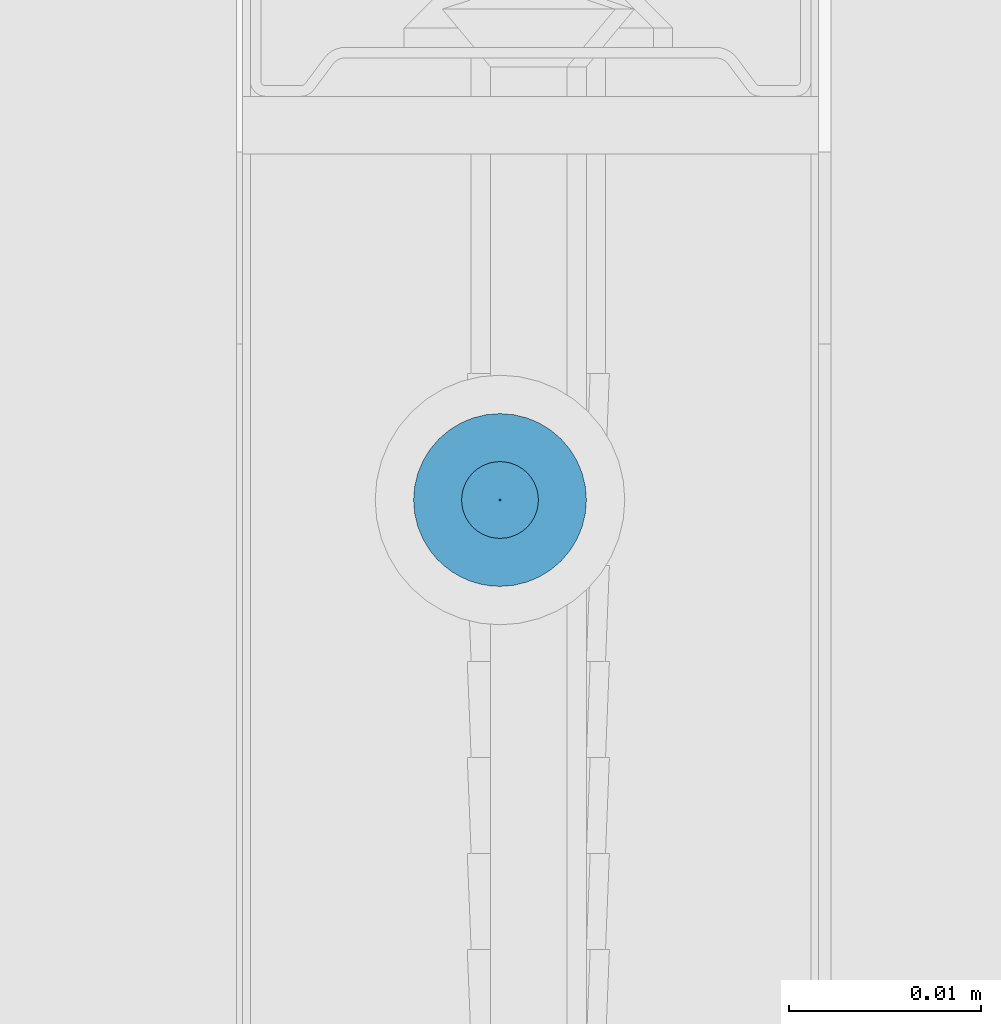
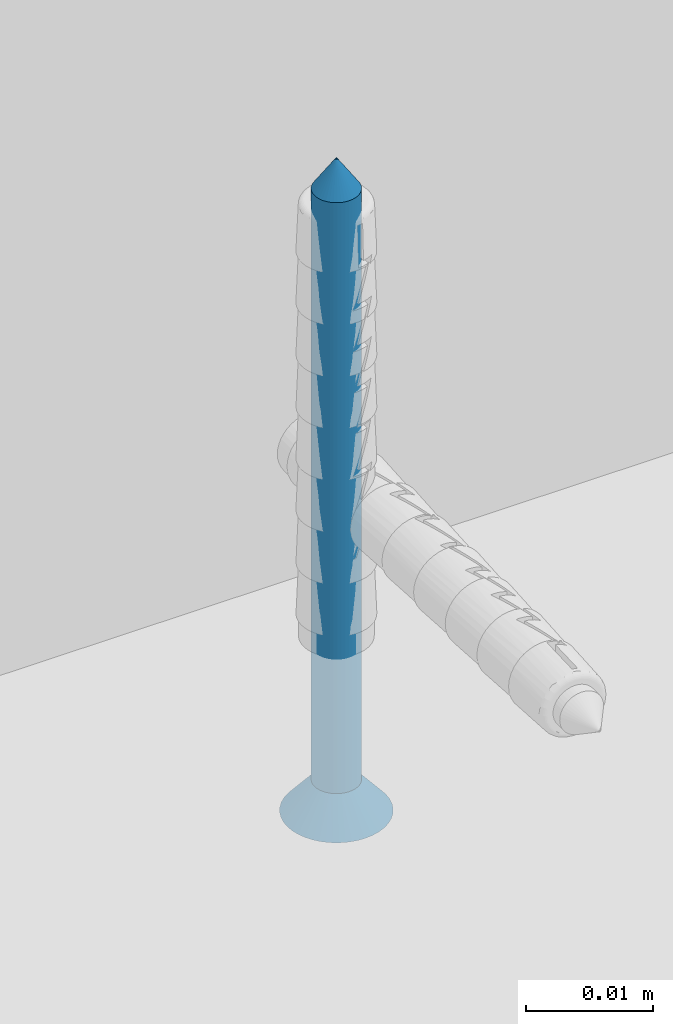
# One storey, part 41 of 62: 1 wall.
"""IFC2X3 building model written with IfcOpenShell, lengths in millimetres."""

from ifc_helpers import new_model, si_unit, frame, origin_with_axes, place, context, subcontext, project, spatial, faceted_brep, material, type_object, element, save


model = new_model("IFC2X3")

# Units and contexts
model_context = context("Model", 3, world=origin_with_axes())
body_context = subcontext(model_context, "Body", "Model", "MODEL_VIEW")
ifc_project = project(units=[si_unit("LENGTHUNIT", "METRE", prefix="MILLI"), si_unit("AREAUNIT", "SQUARE_METRE"), si_unit("VOLUMEUNIT", "CUBIC_METRE")], contexts=[model_context])

# Site, building, storey
site_placement = place(None, frame((2152.14102611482, -2015.0250894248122, 57.61556563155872), z_axis=(0.0, 0.0, 1.0), x_axis=(-1.1102230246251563e-16, 1.0, 0.0)))
site = spatial("IfcSite", under=ifc_project, at=site_placement, Name="Default Site", CompositionType="ELEMENT")
building_placement = place(site_placement, origin_with_axes())
building = spatial("IfcBuilding", under=site, at=building_placement, Name="Default Building", CompositionType="ELEMENT")
storey_placement = place(building_placement, origin_with_axes())
storey = spatial("IfcBuildingStorey", under=building, at=storey_placement, Name="Default Building Storey", CompositionType="ELEMENT", Elevation=57.61556563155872)

# Wall
ifc_material = material(Name="Default")
wall_type = type_object("IfcWallType", Name="Kołek rozporowy min. fi 6#12", PredefinedType="NOTDEFINED")
wall_placement = place(storey_placement, frame((5760.198319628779, 524.6062581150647, 2312.75566171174), z_axis=(-5.639932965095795e-13, -7.647588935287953e-13, -1.0), x_axis=(-1.5788011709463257e-11, -1.0, 7.647588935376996e-13)))
element("IfcWall", 1, at=wall_placement, inside=storey, type_object=wall_type, material=ifc_material, Name="Kołek rozporowy min. fi 6", context=body_context, shape_type="Brep", body=[
    faceted_brep([(-1438.3141994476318, 3453.2833099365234, -0.46425670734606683), (-1435.8141422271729, 3453.2833099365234, -3.464256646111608), (-1435.7895851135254, 3452.970266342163, -3.464256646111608), (-1438.2587671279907, 3452.579259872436, -0.46425670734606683), (-1435.7162714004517, 3452.6650905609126, -3.464256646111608), (-1438.093900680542, 3451.892614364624, -0.46425670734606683), (-1435.5961084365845, 3452.3751735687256, -3.464256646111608), (-1437.8236532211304, 3451.240301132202, -0.46425670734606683), (-1435.4321956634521, 3452.107667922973, -3.464256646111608), (-1437.4547004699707, 3450.6382942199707, -0.46425670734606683), (-1435.22834777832, 3451.8690109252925, -3.464256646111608), (-1436.9961023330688, 3450.101137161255, -0.46425670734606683), (-1434.9896907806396, 3451.665163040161, -3.464256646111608), (-1436.4591836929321, 3449.642658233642, -0.46425670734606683), (-1434.7221851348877, 3451.501131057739, -3.464256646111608), (-1435.8570575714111, 3449.2735862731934, -0.46425670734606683), (-1434.4321489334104, 3451.381206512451, -3.464256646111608), (-1435.2047443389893, 3449.0034580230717, -0.46425670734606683), (-1434.1269731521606, 3451.307773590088, -3.464256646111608), (-1434.5180988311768, 3448.838710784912, -0.46425670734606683), (-1433.8141679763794, 3451.28321647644, -3.464256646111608), (-1433.8141679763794, 3448.7831592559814, -0.46425670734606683), (-1433.5012435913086, 3451.307773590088, -3.464256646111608), (-1433.110237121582, 3448.838710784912, -0.46425670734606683), (-1433.1960678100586, 3451.381206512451, -3.464256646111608), (-1432.4235916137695, 3449.0034580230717, -0.46425670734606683), (-1432.9061508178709, 3451.501131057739, -3.464256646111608), (-1431.771159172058, 3449.2735862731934, -0.46425670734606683), (-1432.6385259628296, 3451.665163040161, -3.464256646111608), (-1431.1691522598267, 3449.642658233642, -0.46425670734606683), (-1432.3999881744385, 3451.8690109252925, -3.464256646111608), (-1430.6321144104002, 3450.101137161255, -0.46425670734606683), (-1432.1961402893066, 3452.107667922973, -3.464256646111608), (-1430.1735162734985, 3450.6382942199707, -0.46425670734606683), (-1432.0321083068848, 3452.3751735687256, -3.464256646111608), (-1429.8045635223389, 3451.240301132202, -0.46425670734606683), (-1431.9120645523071, 3452.6650905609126, -3.464256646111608), (-1429.5344352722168, 3451.892614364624, -0.46425670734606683), (-1431.8387508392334, 3453.5961151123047, -3.464256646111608), (-1429.369568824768, 3453.9871215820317, -0.46425670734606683), (-1429.314136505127, 3453.2833099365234, -0.46425670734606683), (-1431.814193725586, 3453.2833099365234, -3.464256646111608), (-1429.369568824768, 3452.579259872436, -0.46425670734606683), (-1431.8387508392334, 3452.970266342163, -3.464256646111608), (-1431.9120645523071, 3453.9012908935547, -3.464256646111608), (-1429.5344352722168, 3454.6737670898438, -0.46425670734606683), (-1432.0321083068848, 3454.191207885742, -3.464256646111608), (-1429.8045635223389, 3455.3260803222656, -0.46425670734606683), (-1432.1961402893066, 3454.458713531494, -3.464256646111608), (-1430.1735162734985, 3455.9283256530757, -0.46425670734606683), (-1432.3999881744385, 3454.6973705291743, -3.464256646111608), (-1430.6321144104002, 3456.465244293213, -0.46425670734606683), (-1432.6385259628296, 3454.9012184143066, -3.464256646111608), (-1431.1691522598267, 3456.923723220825, -0.46425670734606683), (-1432.9061508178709, 3455.065250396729, -3.464256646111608), (-1431.771159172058, 3457.2927951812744, -0.46425670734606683), (-1433.1960678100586, 3455.1854133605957, -3.464256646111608), (-1432.4235916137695, 3457.562923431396, -0.46425670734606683), (-1433.5012435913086, 3455.25860786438, -3.464256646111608), (-1433.110237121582, 3457.7279090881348, -0.46425670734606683), (-1433.8141679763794, 3455.283164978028, -3.464256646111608), (-1433.8141679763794, 3457.7832221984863, -0.46425670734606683), (-1434.3430995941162, 3457.7519893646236, -0.46425670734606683), (-1434.1269731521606, 3455.25860786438, -3.464256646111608), (-1434.4321489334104, 3455.1854133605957, -3.464256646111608), (-1434.8646402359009, 3457.6590061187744, -0.46425670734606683), (-1435.3716373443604, 3457.504987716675, -0.46425670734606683), (-1434.7221851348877, 3455.065250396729, -3.464256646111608), (-1435.8570575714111, 3457.2927951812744, -0.46425670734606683), (-1434.9896907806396, 3454.9012184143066, -3.464256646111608), (-1435.22834777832, 3454.6973705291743, -3.464256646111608), (-1436.3142251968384, 3457.024812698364, -0.46425670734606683), (-1436.7367029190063, 3456.705093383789, -0.46425670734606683), (-1437.118649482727, 3456.337928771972, -0.46425670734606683), (-1437.4547004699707, 3455.9283256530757, -0.46425670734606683), (-1435.4321956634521, 3454.458713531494, -3.464256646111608), (-1435.5961084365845, 3454.191207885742, -3.464256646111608), (-1437.8236532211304, 3455.3260803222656, -0.46425670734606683), (-1435.7162714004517, 3453.9012908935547, -3.464256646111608), (-1438.093900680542, 3454.6737670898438, -0.46425670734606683), (-1435.7895851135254, 3453.5961151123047, -3.464256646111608), (-1438.2587671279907, 3453.9871215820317, -0.46425670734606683), (-1434.2052936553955, 3455.752372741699, 0.20073754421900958), (-1433.8141679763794, 3455.7831287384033, 0.20073754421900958), (-1434.5866441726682, 3455.6608200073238, 0.20073754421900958), (-1434.9491596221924, 3455.510854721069, 0.20073754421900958), (-1435.2836608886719, 3455.305814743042, 0.20073754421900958), (-1435.581922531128, 3455.0509452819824, 0.20073754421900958), (-1435.836672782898, 3454.7526836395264, 0.20073754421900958), (-1436.0417127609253, 3454.418182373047, 0.20073754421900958), (-1436.1917972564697, 3454.0557861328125, 0.20073754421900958), (-1436.2833499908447, 3453.6743164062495, 0.20073754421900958), (-1436.3141059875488, 3453.2833099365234, 0.20073754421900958), (-1436.2833499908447, 3452.8920650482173, 0.20073754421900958), (-1436.1917972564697, 3452.5105953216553, 0.20073754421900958), (-1436.0417127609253, 3452.148199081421, 0.20073754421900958), (-1435.836672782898, 3451.8136978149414, 0.20073754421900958), (-1435.581922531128, 3451.5154361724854, 0.20073754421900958), (-1435.2836608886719, 3451.260566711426, 0.20073754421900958), (-1434.9491596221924, 3451.0557651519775, 0.20073754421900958), (-1434.5866441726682, 3450.905561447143, 0.20073754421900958), (-1433.4230422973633, 3450.8140087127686, 0.20073754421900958), (-1433.8141679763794, 3450.7832527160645, 0.20073754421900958), (-1434.2052936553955, 3450.8140087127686, 0.20073754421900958), (-1433.0415725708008, 3450.905561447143, 0.20073754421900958), (-1432.6791763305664, 3451.0557651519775, 0.20073754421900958), (-1432.344675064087, 3451.260566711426, 0.20073754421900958), (-1432.0464134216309, 3451.5154361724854, 0.20073754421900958), (-1431.7916631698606, 3451.8136978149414, 0.20073754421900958), (-1431.5866231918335, 3452.148199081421, 0.20073754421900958), (-1431.436538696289, 3452.5105953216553, 0.20073754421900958), (-1431.344985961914, 3452.8920650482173, 0.20073754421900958), (-1431.3141107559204, 3453.2833099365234, 0.20073754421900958), (-1431.344985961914, 3453.6743164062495, 0.20073754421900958), (-1431.436538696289, 3454.0557861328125, 0.20073754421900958), (-1431.5866231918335, 3454.418182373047, 0.20073754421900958), (-1431.7916631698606, 3454.7526836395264, 0.20073754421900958), (-1432.0464134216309, 3455.0509452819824, 0.20073754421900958), (-1432.344675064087, 3455.305814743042, 0.20073754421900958), (-1432.6791763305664, 3455.510854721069, 0.20073754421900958), (-1433.0415725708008, 3455.6608200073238, 0.20073754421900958), (-1433.4230422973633, 3455.752372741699, 0.20073754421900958), (-1433.8141679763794, 3453.2833099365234, -63.46425414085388), (-1435.7895851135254, 3452.970266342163, -60.464255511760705), (-1435.8141422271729, 3453.2833099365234, -60.464255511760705), (-1435.7162714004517, 3452.6650905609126, -60.464255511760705), (-1435.5961084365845, 3452.3751735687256, -60.464255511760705), (-1435.4321956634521, 3452.107667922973, -60.464255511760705), (-1435.22834777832, 3451.8690109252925, -60.464255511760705), (-1434.9896907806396, 3451.665163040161, -60.464255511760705), (-1434.7221851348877, 3451.501131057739, -60.464255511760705), (-1434.4321489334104, 3451.381206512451, -60.464255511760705), (-1434.1269731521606, 3451.307773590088, -60.464255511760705), (-1433.8141679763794, 3451.28321647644, -60.464255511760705), (-1433.5012435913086, 3451.307773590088, -60.464255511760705), (-1433.1960678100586, 3451.381206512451, -60.464255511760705), (-1432.9061508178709, 3451.501131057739, -60.464255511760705), (-1432.6385259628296, 3451.665163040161, -60.464255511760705), (-1432.3999881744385, 3451.8690109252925, -60.464255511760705), (-1432.1961402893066, 3452.107667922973, -60.464255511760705), (-1432.0321083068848, 3452.3751735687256, -60.464255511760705), (-1431.9120645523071, 3452.6650905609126, -60.464255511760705), (-1431.8387508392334, 3452.970266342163, -60.464255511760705), (-1431.814193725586, 3453.2833099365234, -60.464255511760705), (-1431.8387508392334, 3453.5961151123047, -60.464255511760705), (-1431.9120645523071, 3453.9012908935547, -60.464255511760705), (-1432.0321083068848, 3454.191207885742, -60.464255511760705), (-1432.1961402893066, 3454.458713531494, -60.464255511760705), (-1432.3999881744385, 3454.6973705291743, -60.464255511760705), (-1432.6385259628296, 3454.9012184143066, -60.464255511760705), (-1432.9061508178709, 3455.065250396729, -60.464255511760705), (-1433.1960678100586, 3455.1854133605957, -60.464255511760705), (-1433.5012435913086, 3455.25860786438, -60.464255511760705), (-1433.8141679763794, 3455.283164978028, -60.464255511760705), (-1434.1269731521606, 3455.25860786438, -60.464255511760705), (-1434.4321489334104, 3455.1854133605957, -60.464255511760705), (-1434.7221851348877, 3455.065250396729, -60.464255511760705), (-1434.9896907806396, 3454.9012184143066, -60.464255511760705), (-1435.22834777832, 3454.6973705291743, -60.464255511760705), (-1435.4321956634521, 3454.458713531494, -60.464255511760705), (-1435.5961084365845, 3454.191207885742, -60.464255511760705), (-1435.7162714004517, 3453.9012908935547, -60.464255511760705), (-1435.7895851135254, 3453.5961151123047, -60.464255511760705), (-1436.0417127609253, 3454.418182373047, 0.049999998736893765), (-1436.1917972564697, 3454.0557861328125, 0.049999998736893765), (-1436.2833499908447, 3453.6743164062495, 0.049999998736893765), (-1436.3141059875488, 3453.2833099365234, 0.049999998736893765), (-1436.2833499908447, 3452.8920650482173, 0.049999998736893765), (-1436.1917972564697, 3452.5105953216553, 0.049999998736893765), (-1436.0417127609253, 3452.148199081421, 0.049999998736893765), (-1435.836672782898, 3451.8136978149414, 0.049999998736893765), (-1435.581922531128, 3451.5154361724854, 0.049999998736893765), (-1435.2836608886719, 3451.260566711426, 0.049999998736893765), (-1434.9491596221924, 3451.0557651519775, 0.049999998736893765), (-1434.5866441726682, 3450.905561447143, 0.049999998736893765), (-1434.2052936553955, 3450.8140087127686, 0.049999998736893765), (-1433.8141679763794, 3450.7832527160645, 0.049999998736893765), (-1433.4230422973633, 3450.8140087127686, 0.049999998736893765), (-1433.0415725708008, 3450.905561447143, 0.049999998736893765), (-1432.6791763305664, 3451.0557651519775, 0.049999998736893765), (-1432.344675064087, 3451.260566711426, 0.049999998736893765), (-1432.0464134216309, 3451.5154361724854, 0.049999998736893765), (-1431.7916631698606, 3451.8136978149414, 0.049999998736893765), (-1431.5866231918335, 3452.148199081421, 0.049999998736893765), (-1431.436538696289, 3452.5105953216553, 0.049999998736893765), (-1431.344985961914, 3452.8920650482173, 0.049999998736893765), (-1431.3141107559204, 3453.2833099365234, 0.049999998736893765), (-1431.344985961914, 3453.6743164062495, 0.049999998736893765), (-1431.436538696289, 3454.0557861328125, 0.049999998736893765), (-1431.5866231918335, 3454.418182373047, 0.049999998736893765), (-1431.7916631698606, 3454.7526836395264, 0.049999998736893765), (-1432.0464134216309, 3455.0509452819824, 0.049999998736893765), (-1432.344675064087, 3455.305814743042, 0.049999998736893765), (-1432.6791763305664, 3455.510854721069, 0.049999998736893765), (-1433.0415725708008, 3455.6608200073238, 0.049999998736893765), (-1433.4230422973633, 3455.752372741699, 0.049999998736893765), (-1433.8141679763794, 3455.7831287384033, 0.049999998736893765), (-1434.2052936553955, 3455.752372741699, 0.049999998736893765), (-1434.5866441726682, 3455.6608200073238, 0.049999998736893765), (-1434.9491596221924, 3455.510854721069, 0.049999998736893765), (-1435.2836608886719, 3455.305814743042, 0.049999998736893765), (-1435.581922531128, 3455.0509452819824, 0.049999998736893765), (-1435.836672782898, 3454.7526836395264, 0.049999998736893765), (-1434.3141317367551, 3452.7831077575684, 0.049999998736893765), (-1435.8141422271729, 3452.7831077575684, 0.049999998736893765), (-1435.8141422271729, 3453.7832736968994, 0.049999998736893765), (-1434.3141317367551, 3453.7832736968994, 0.049999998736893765), (-1434.3141317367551, 3455.283164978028, 0.049999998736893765), (-1433.3142042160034, 3455.283164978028, 0.049999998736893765), (-1433.3142042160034, 3453.7832736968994, 0.049999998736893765), (-1431.814193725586, 3453.7832736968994, 0.049999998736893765), (-1431.814193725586, 3452.7831077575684, 0.049999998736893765), (-1433.3142042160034, 3452.7831077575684, 0.049999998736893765), (-1433.3142042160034, 3451.28321647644, 0.049999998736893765), (-1434.3141317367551, 3451.28321647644, 0.049999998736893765), (-1434.3141317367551, 3452.7831077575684, -1.799262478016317), (-1434.3141317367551, 3451.28321647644, -1.799262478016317), (-1433.3142042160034, 3451.28321647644, -1.799262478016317), (-1433.3142042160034, 3452.7831077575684, -1.799262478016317), (-1431.814193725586, 3452.7831077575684, -1.799262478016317), (-1431.814193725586, 3453.7832736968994, -1.799262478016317), (-1433.3142042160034, 3453.7832736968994, -1.799262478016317), (-1433.3142042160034, 3455.283164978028, -1.799262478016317), (-1434.3141317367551, 3455.283164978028, -1.799262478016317), (-1434.3141317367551, 3453.7832736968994, -1.799262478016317), (-1435.8141422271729, 3453.7832736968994, -1.799262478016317), (-1435.8141422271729, 3452.7831077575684, -1.799262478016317)], [[[0, 1, 2, 3]], [[4, 5, 3, 2]], [[6, 7, 5, 4]], [[7, 6, 8, 9]], [[10, 11, 9, 8]], [[11, 10, 12, 13]], [[14, 15, 13, 12]], [[16, 17, 15, 14]], [[17, 16, 18, 19]], [[20, 21, 19, 18]], [[21, 20, 22, 23]], [[24, 25, 23, 22]], [[26, 27, 25, 24]], [[27, 26, 28, 29]], [[30, 31, 29, 28]], [[31, 30, 32, 33]], [[34, 35, 33, 32]], [[36, 37, 35, 34]], [[38, 39, 40, 41]], [[41, 40, 42, 43]], [[37, 36, 43, 42]], [[44, 45, 39, 38]], [[46, 47, 45, 44]], [[47, 46, 48, 49]], [[50, 51, 49, 48]], [[51, 50, 52, 53]], [[54, 55, 53, 52]], [[56, 57, 55, 54]], [[57, 56, 58, 59]], [[60, 61, 59, 58]], [[62, 61, 63]], [[61, 60, 63]], [[63, 64, 62]], [[64, 65, 62]], [[66, 65, 64]], [[64, 67, 66]], [[67, 68, 66]], [[69, 70, 71]], [[70, 72, 71]], [[71, 68, 69]], [[68, 67, 69]], [[70, 73, 72]], [[74, 73, 75]], [[73, 70, 75]], [[76, 77, 74, 75]], [[78, 79, 77, 76]], [[79, 78, 80, 81]], [[1, 0, 81, 80]], [[82, 83, 62]], [[83, 61, 62]], [[62, 65, 82]], [[65, 84, 82]], [[66, 68, 84]], [[68, 85, 84]], [[84, 65, 66]], [[86, 85, 71]], [[85, 68, 71]], [[72, 73, 87]], [[87, 86, 72]], [[86, 71, 72]], [[88, 87, 74]], [[87, 73, 74]], [[77, 89, 88, 74]], [[79, 90, 89, 77]], [[90, 79, 81, 91]], [[0, 92, 91, 81]], [[92, 0, 3, 93]], [[5, 94, 93, 3]], [[7, 95, 94, 5]], [[95, 7, 9, 96]], [[11, 97, 96, 9]], [[97, 11, 13, 98]], [[15, 99, 98, 13]], [[17, 100, 99, 15]], [[23, 101, 102, 21]], [[21, 102, 103, 19]], [[100, 17, 19, 103]], [[25, 104, 101, 23]], [[27, 105, 104, 25]], [[105, 27, 29, 106]], [[31, 107, 106, 29]], [[107, 31, 33, 108]], [[35, 109, 108, 33]], [[37, 110, 109, 35]], [[110, 37, 42, 111]], [[40, 112, 111, 42]], [[112, 40, 39, 113]], [[45, 114, 113, 39]], [[47, 115, 114, 45]], [[115, 47, 49, 116]], [[51, 117, 116, 49]], [[117, 51, 53, 118]], [[55, 119, 118, 53]], [[57, 120, 119, 55]], [[120, 57, 59, 121]], [[61, 83, 121, 59]], [[122, 123, 124]], [[122, 125, 123]], [[122, 126, 125]], [[127, 126, 122]], [[122, 128, 127]], [[129, 128, 122]], [[122, 130, 129]], [[122, 131, 130]], [[132, 131, 122]], [[122, 133, 132]], [[134, 133, 122]], [[122, 135, 134]], [[122, 136, 135]], [[137, 136, 122]], [[122, 138, 137]], [[139, 138, 122]], [[122, 140, 139]], [[122, 141, 140]], [[142, 141, 122]], [[122, 143, 142]], [[144, 143, 122]], [[122, 145, 144]], [[122, 146, 145]], [[147, 146, 122]], [[122, 148, 147]], [[149, 148, 122]], [[122, 150, 149]], [[122, 151, 150]], [[152, 151, 122]], [[122, 153, 152]], [[154, 153, 122]], [[122, 155, 154]], [[122, 156, 155]], [[157, 156, 122]], [[122, 158, 157]], [[159, 158, 122]], [[122, 160, 159]], [[122, 161, 160]], [[162, 161, 122]], [[124, 162, 122]], [[1, 124, 123, 2]], [[125, 4, 2, 123]], [[126, 6, 4, 125]], [[6, 126, 127, 8]], [[128, 10, 8, 127]], [[10, 128, 129, 12]], [[130, 14, 12, 129]], [[131, 16, 14, 130]], [[16, 131, 132, 18]], [[133, 20, 18, 132]], [[20, 133, 134, 22]], [[135, 24, 22, 134]], [[136, 26, 24, 135]], [[26, 136, 137, 28]], [[138, 30, 28, 137]], [[30, 138, 139, 32]], [[140, 34, 32, 139]], [[141, 36, 34, 140]], [[144, 38, 41, 143]], [[143, 41, 43, 142]], [[36, 141, 142, 43]], [[145, 44, 38, 144]], [[146, 46, 44, 145]], [[46, 146, 147, 48]], [[148, 50, 48, 147]], [[50, 148, 149, 52]], [[150, 54, 52, 149]], [[151, 56, 54, 150]], [[56, 151, 152, 58]], [[153, 60, 58, 152]], [[60, 153, 154, 63]], [[155, 64, 63, 154]], [[156, 67, 64, 155]], [[67, 156, 157, 69]], [[158, 70, 69, 157]], [[70, 158, 159, 75]], [[160, 76, 75, 159]], [[161, 78, 76, 160]], [[78, 161, 162, 80]], [[124, 1, 80, 162]], [[163, 164, 165, 166, 167, 168, 169, 170, 171, 172, 173, 174, 175, 176, 177, 178, 179, 180, 181, 182, 183, 184, 185, 186, 187, 188, 189, 190, 191, 192, 193, 194, 195, 196, 197, 198, 199, 200, 201, 202], [203, 204, 205, 206, 207, 208, 209, 210, 211, 212, 213, 214]], [[187, 186, 112, 113]], [[113, 114, 188, 187]], [[114, 115, 189, 188]], [[190, 189, 115, 116]], [[116, 117, 191, 190]], [[192, 191, 117, 118]], [[118, 119, 193, 192]], [[119, 120, 194, 193]], [[195, 194, 120, 121]], [[121, 83, 196, 195]], [[197, 196, 83, 82]], [[82, 84, 198, 197]], [[84, 85, 199, 198]], [[200, 199, 85, 86]], [[86, 87, 201, 200]], [[202, 201, 87, 88]], [[88, 89, 163, 202]], [[89, 90, 164, 163]], [[92, 93, 167, 166]], [[91, 92, 166, 165]], [[165, 164, 90, 91]], [[93, 94, 168, 167]], [[94, 95, 169, 168]], [[170, 169, 95, 96]], [[96, 97, 171, 170]], [[172, 171, 97, 98]], [[98, 99, 173, 172]], [[99, 100, 174, 173]], [[175, 174, 100, 103]], [[103, 102, 176, 175]], [[177, 176, 102, 101]], [[101, 104, 178, 177]], [[104, 105, 179, 178]], [[180, 179, 105, 106]], [[106, 107, 181, 180]], [[182, 181, 107, 108]], [[108, 109, 183, 182]], [[109, 110, 184, 183]], [[185, 184, 110, 111]], [[111, 112, 186, 185]], [[215, 216, 217, 218, 219, 220, 221, 222, 223, 224, 225, 226]], [[216, 214, 213, 217]], [[215, 203, 214, 216]], [[226, 204, 203, 215]], [[225, 205, 204, 226]], [[224, 206, 205, 225]], [[223, 207, 206, 224]], [[222, 208, 207, 223]], [[221, 209, 208, 222]], [[220, 210, 209, 221]], [[219, 211, 210, 220]], [[218, 212, 211, 219]], [[217, 213, 212, 218]]]),
])

save(model, "model.ifc")
